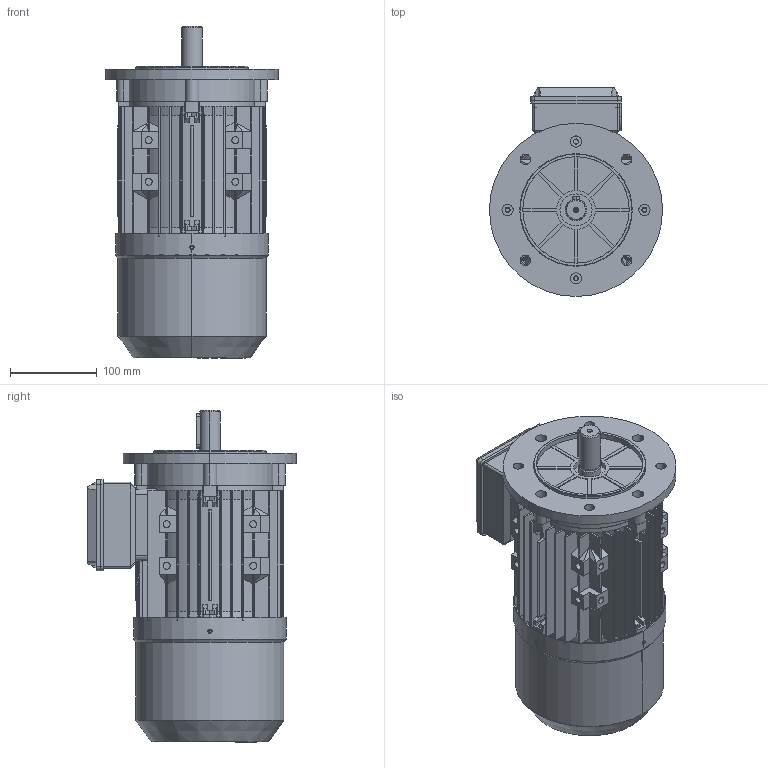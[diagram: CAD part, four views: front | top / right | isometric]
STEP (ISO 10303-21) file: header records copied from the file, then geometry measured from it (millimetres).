
FILE_DESCRIPTION (( 'STEP AP214' ), '1' );
FILE_NAME ('BMS90L1_B5.STEP', '2019-04-08T11:06:56', ( '' ), ( '' ), 'SwSTEP 2.0', 'SolidWorks 2012', '' );
FILE_SCHEMA (( 'AUTOMOTIVE_DESIGN' ));
Length unit declared in the file: millimetre
Products named in the file (8): BRE-Haube_BMS90; Klemmenkastendeckel_MS90; Klemmenkastenunterteil_MS90; L黤terfl黦el_MS90; B-Lagerschild_MS90; B5-Flansch_MS90; Gehäuse_MS90L1; BMS90L1_B5
Assembly tree (7 placements, depth 2):
  BMS90L1_B5
    Gehäuse_MS90L1
    B5-Flansch_MS90
    B-Lagerschild_MS90
    L黤terfl黦el_MS90
    Klemmenkastenunterteil_MS90
    Klemmenkastendeckel_MS90
    BRE-Haube_BMS90
Bounding box: 200 x 241.5 x 383.5 mm (x, y, z)
Volume: 1476411.2 mm3; surface area: 812635.9 mm2
Topology: 7 solids, 7 shells, 2389 faces, 6495 edges, 4221 vertices
Faces by surface type: plane 1537, cylinder 580, bspline 163, cone 109
Entity records: 86712 total; most frequent: CARTESIAN_POINT 26857, ORIENTED_EDGE 12958, DIRECTION 11286, EDGE_CURVE 6479, LINE 4568, VECTOR 4568, VERTEX_POINT 4221, AXIS2_PLACEMENT_3D 3359
